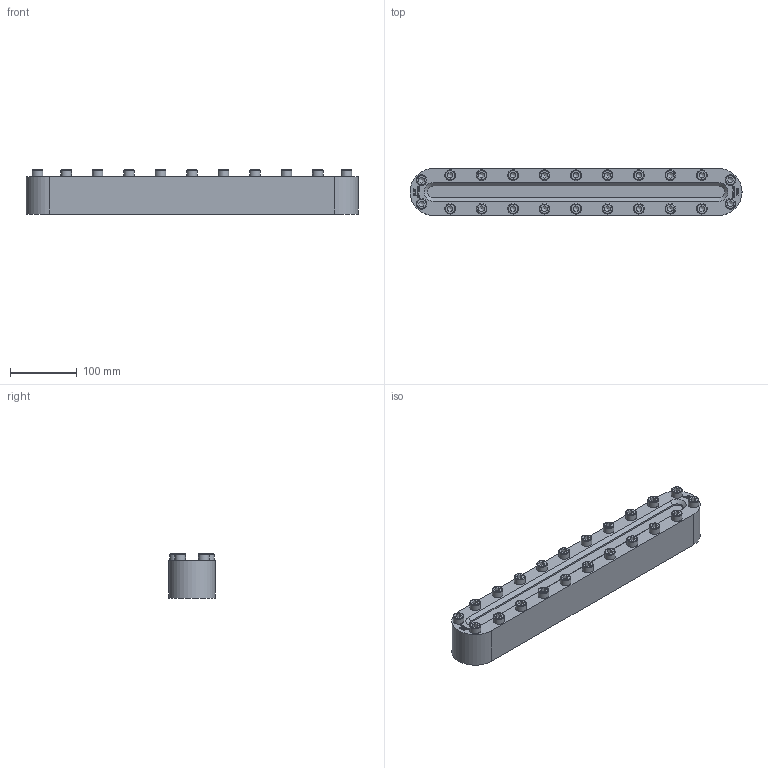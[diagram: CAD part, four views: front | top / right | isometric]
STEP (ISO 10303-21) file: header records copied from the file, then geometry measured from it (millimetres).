
FILE_DESCRIPTION(/* description */ (''),/* implementation_level */ '2;1');
FILE_NAME(/* name */ 'W:\Konstruktion_ACI\337\STEP\ACI-337-496-25.stp',/* time_stamp */ '2022-03-22T08:04:59+01:00',/* author */ ('Travnicek'),/* organization */ (''),/* preprocessor_version */ 'ST-DEVELOPER v16.1',/* originating_system */ 'Autodesk Inventor 2016',/* authorisation */ '');
FILE_SCHEMA (('AUTOMOTIVE_DESIGN { 1 0 10303 214 3 1 1 }'));
Length unit declared in the file: centimetre
Products named in the file (1): 337
Bounding box: 496 x 70 x 65.9 mm (x, y, z)
Volume: 1691989.3 mm3; surface area: 164031.6 mm2
Topology: 1 solids, 1 shells, 660 faces, 1746 edges, 1148 vertices
Faces by surface type: plane 380, bspline 206, cylinder 28, cone 24, torus 22
Full cylindrical faces by diameter (mm): 16 x22
Entity records: 21271 total; most frequent: CARTESIAN_POINT 6387, ORIENTED_EDGE 3316, DIRECTION 2104, EDGE_CURVE 1658, VERTEX_POINT 1126, LINE 1034, VECTOR 1034, EDGE_LOOP 786
